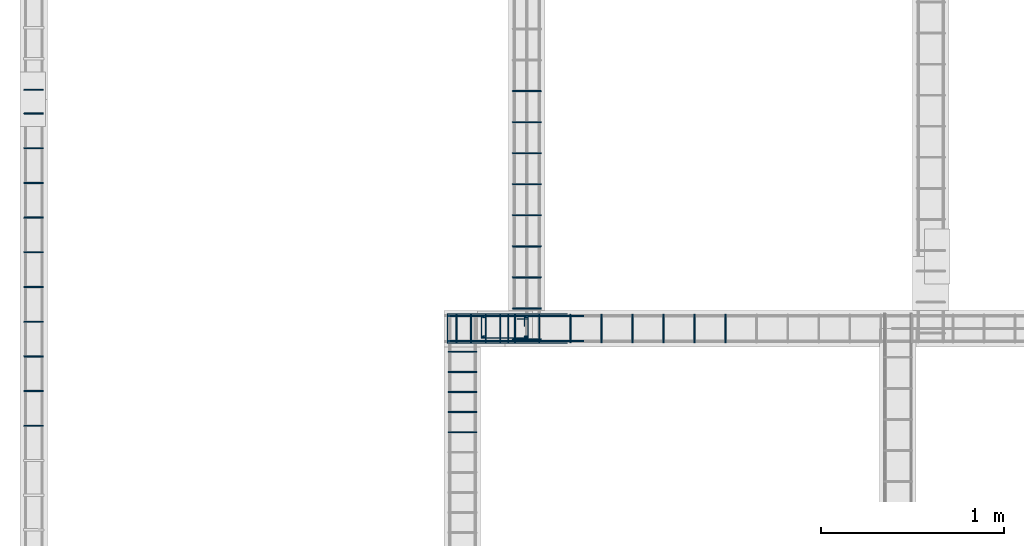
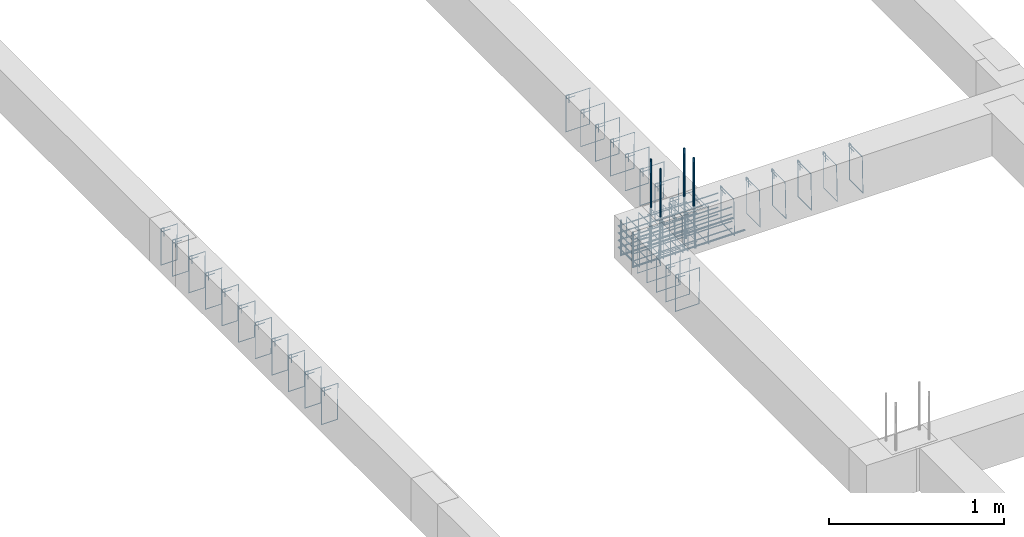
# One storey, part 112 of 150: 51 reinforcing bars.
"""IFC4 building model written with IfcOpenShell, lengths in centimetres."""

from ifc_helpers import new_model, entity, si_unit, derived_unit, frame, origin_with_axes, place, context, project, spatial, source, transform, mapped, element, save


model = new_model("IFC4")

# Units and contexts
model_context = context("Model", 3, precision=1e-05, world=origin_with_axes(), identifier="Body")
ifc_project = project(units=[si_unit("LENGTHUNIT", "METRE", prefix="CENTI"), si_unit("VOLUMEUNIT", "CUBIC_METRE"), si_unit("AREAUNIT", "SQUARE_METRE"), si_unit("POWERUNIT", "WATT"), si_unit("LUMINOUSFLUXUNIT", "LUMEN"), si_unit("ELECTRICCURRENTUNIT", "AMPERE"), si_unit("PRESSUREUNIT", "PASCAL", prefix="KILO"), si_unit("MASSUNIT", "GRAM", prefix="KILO"), si_unit("PLANEANGLEUNIT", "RADIAN"), derived_unit("VOLUMETRICFLOWRATEUNIT", [(si_unit("LENGTHUNIT", "METRE"), 3), (si_unit("TIMEUNIT", "SECOND"), -1)])], contexts=[model_context])

# Site, building, storey
site_placement = place(None, frame((-4000.0, 0.0, 0.0), z_axis=(0.0, 0.0, 1.0), x_axis=(1.0, 0.0, 0.0)))
site = spatial("IfcSite", under=ifc_project, at=site_placement, Name="PADRÃO")
building_placement = place(site_placement, frame((0.0, 0.0, -14.0)))
building = spatial("IfcBuilding", under=site, at=building_placement, Name="CRECHE PRÉ-ESCOLA TIPO 2")
placement = place(building_placement, origin_with_axes())
storey_placement = place(placement, frame((0.0, 0.0, 30.0), z_axis=(0.0, 0.0, 1.0), x_axis=(1.0, 0.0, 0.0)))
storey = spatial("IfcBuildingStorey", under=building, at=storey_placement, Name="VIGA BALDRAME", CompositionType="ELEMENT", Elevation=16.0)

# Reinforcing bars
shared_shape_1 = source(origin_with_axes(), model_context, "Body", "AdvancedSweptSolid", [
    entity("IfcSweptDiskSolid", entity("IfcCompositeCurve", [entity("IfcCompositeCurveSegment", "CONTINUOUS", True, entity("IfcPolyline", [entity("IfcCartesianPoint", [4.25, 21.75, 0.0]), entity("IfcCartesianPoint", [4.25, 27.75, 0.0])])), entity("IfcCompositeCurveSegment", "CONTINUOUS", True, entity("IfcPolyline", [entity("IfcCartesianPoint", [4.25, 27.75, 0.0]), entity("IfcCartesianPoint", [2.25, 27.75, 0.0])])), entity("IfcCompositeCurveSegment", "CONTINUOUS", True, entity("IfcPolyline", [entity("IfcCartesianPoint", [2.25, 27.75, 0.0]), entity("IfcCartesianPoint", [2.25, 2.25, 0.0])])), entity("IfcCompositeCurveSegment", "CONTINUOUS", True, entity("IfcPolyline", [entity("IfcCartesianPoint", [2.25, 2.25, 0.0]), entity("IfcCartesianPoint", [14.75, 2.25, 0.0])])), entity("IfcCompositeCurveSegment", "CONTINUOUS", True, entity("IfcPolyline", [entity("IfcCartesianPoint", [14.75, 2.25, 0.0]), entity("IfcCartesianPoint", [14.75, 27.75, -0.5])])), entity("IfcCompositeCurveSegment", "CONTINUOUS", True, entity("IfcPolyline", [entity("IfcCartesianPoint", [14.75, 27.75, -0.5]), entity("IfcCartesianPoint", [2.25, 27.75, -0.5])])), entity("IfcCompositeCurveSegment", "CONTINUOUS", True, entity("IfcPolyline", [entity("IfcCartesianPoint", [2.25, 27.75, -0.5]), entity("IfcCartesianPoint", [2.25, 25.75, -0.5])])), entity("IfcCompositeCurveSegment", "CONTINUOUS", True, entity("IfcPolyline", [entity("IfcCartesianPoint", [2.25, 25.75, -0.5]), entity("IfcCartesianPoint", [8.25, 25.75, -0.5])]))], False), 0.25),
])
for number, where, z_axis, x_axis, name in (
    (1, (252.01, 3478.5, -15.0), (0.0, 0.0, 1.0), (0.0, -1.0, 0.0), "P36 - Estribo"),
    (2, (252.01, 3478.5, -25.0), (0.0, 0.0, 1.0), (0.0, -1.0, 0.0), "P36 - Estribo"),
    (3, (252.01, 3478.5, -5.0), (0.0, 0.0, 1.0), (0.0, -1.0, 0.0), "P36 - Estribo"),
):
    element("IfcReinforcingBar", number, at=place(storey_placement, frame(where, z_axis=z_axis, x_axis=x_axis)), inside=storey, Name=name, BarLength=0.0, CrossSectionArea=1.9634954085e-05, NominalDiameter=0.5, PredefinedType="MAIN", context=model_context, shape_type="MappedRepresentation", body=[
        mapped(shared_shape_1, transform((0.0, 0.0, 0.0), scale=1.0)),
    ])
shared_shape_2 = source(origin_with_axes(), model_context, "Body", "AdvancedSweptSolid", [
    entity("IfcSweptDiskSolid", entity("IfcCompositeCurve", [entity("IfcCompositeCurveSegment", "CONTINUOUS", True, entity("IfcPolyline", [entity("IfcCartesianPoint", [2.0, -6.0, 0.0]), entity("IfcCartesianPoint", [2.0, 0.0, 0.0])])), entity("IfcCompositeCurveSegment", "CONTINUOUS", True, entity("IfcPolyline", [entity("IfcCartesianPoint", [2.0, 0.0, 0.0]), entity("IfcCartesianPoint", [0.0, 0.0, 0.0])])), entity("IfcCompositeCurveSegment", "CONTINUOUS", True, entity("IfcPolyline", [entity("IfcCartesianPoint", [0.0, 0.0, 0.0]), entity("IfcCartesianPoint", [0.0, -25.5, 0.0])])), entity("IfcCompositeCurveSegment", "CONTINUOUS", True, entity("IfcPolyline", [entity("IfcCartesianPoint", [0.0, -25.5, 0.0]), entity("IfcCartesianPoint", [15.5, -25.5, 0.0])])), entity("IfcCompositeCurveSegment", "CONTINUOUS", True, entity("IfcPolyline", [entity("IfcCartesianPoint", [15.5, -25.5, 0.0]), entity("IfcCartesianPoint", [15.5, 0.0, 0.5])])), entity("IfcCompositeCurveSegment", "CONTINUOUS", True, entity("IfcPolyline", [entity("IfcCartesianPoint", [15.5, 0.0, 0.5]), entity("IfcCartesianPoint", [0.0, 0.0, 0.5])])), entity("IfcCompositeCurveSegment", "CONTINUOUS", True, entity("IfcPolyline", [entity("IfcCartesianPoint", [0.0, 0.0, 0.5]), entity("IfcCartesianPoint", [0.0, -2.0, 0.5])])), entity("IfcCompositeCurveSegment", "CONTINUOUS", True, entity("IfcPolyline", [entity("IfcCartesianPoint", [0.0, -2.0, 0.5]), entity("IfcCartesianPoint", [6.0, -2.0, 0.5])]))], False), 0.25),
])
for number, where, z_axis, x_axis, name in (
    (4, (235.99, 3445.51, -2.25), (0.0, -1.0, 0.0), (1.0, 0.0, 0.0), "V164 - Estribo"),
    (5, (235.99, 3456.51, -2.25), (0.0, -1.0, 0.0), (1.0, 0.0, 0.0), "V164 - Estribo"),
    (6, (235.99, 3412.51, -2.25), (0.0, -1.0, 0.0), (1.0, 0.0, 0.0), "V164 - Estribo"),
    (7, (235.99, 3423.51, -2.25), (0.0, -1.0, 0.0), (1.0, 0.0, 0.0), "V164 - Estribo"),
    (8, (235.99, 3434.51, -2.25), (0.0, -1.0, 0.0), (1.0, 0.0, 0.0), "V164 - Estribo"),
):
    element("IfcReinforcingBar", number, at=place(storey_placement, frame(where, z_axis=z_axis, x_axis=x_axis)), inside=storey, Name=name, BarLength=0.0, CrossSectionArea=1.9634954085e-05, NominalDiameter=0.5, PredefinedType="MAIN", context=model_context, shape_type="MappedRepresentation", body=[
        mapped(shared_shape_2, transform((0.0, 0.0, 0.0), scale=1.0)),
    ])
shared_shape_3 = source(origin_with_axes(), model_context, "Body", "AdvancedSweptSolid", [
    entity("IfcSweptDiskSolid", entity("IfcCompositeCurve", [entity("IfcCompositeCurveSegment", "CONTINUOUS", True, entity("IfcPolyline", [entity("IfcCartesianPoint", [2.0, -6.0, 0.0]), entity("IfcCartesianPoint", [2.0, 0.0, 0.0])])), entity("IfcCompositeCurveSegment", "CONTINUOUS", True, entity("IfcPolyline", [entity("IfcCartesianPoint", [2.0, 0.0, 0.0]), entity("IfcCartesianPoint", [0.0, 0.0, 0.0])])), entity("IfcCompositeCurveSegment", "CONTINUOUS", True, entity("IfcPolyline", [entity("IfcCartesianPoint", [0.0, 0.0, 0.0]), entity("IfcCartesianPoint", [0.0, -25.5, 0.0])])), entity("IfcCompositeCurveSegment", "CONTINUOUS", True, entity("IfcPolyline", [entity("IfcCartesianPoint", [0.0, -25.5, 0.0]), entity("IfcCartesianPoint", [15.5, -25.5, 0.0])])), entity("IfcCompositeCurveSegment", "CONTINUOUS", True, entity("IfcPolyline", [entity("IfcCartesianPoint", [15.5, -25.5, 0.0]), entity("IfcCartesianPoint", [15.5, 0.0, 0.5])])), entity("IfcCompositeCurveSegment", "CONTINUOUS", True, entity("IfcPolyline", [entity("IfcCartesianPoint", [15.5, 0.0, 0.5]), entity("IfcCartesianPoint", [0.0, 0.0, 0.5])])), entity("IfcCompositeCurveSegment", "CONTINUOUS", True, entity("IfcPolyline", [entity("IfcCartesianPoint", [0.0, 0.0, 0.5]), entity("IfcCartesianPoint", [0.0, -2.0, 0.5])])), entity("IfcCompositeCurveSegment", "CONTINUOUS", True, entity("IfcPolyline", [entity("IfcCartesianPoint", [0.0, -2.0, 0.5]), entity("IfcCartesianPoint", [6.0, -2.0, 0.5])]))], False), 0.25),
])
for number, where, z_axis, x_axis, name in (
    (9, (271.25, 3514.25, -2.25), (0.0, -1.0, 0.0), (1.0, 0.0, 0.0), "V165 - Estribo"),
    (10, (271.25, 3480.25, -2.25), (0.0, -1.0, 0.0), (1.0, 0.0, 0.0), "V165 - Estribo"),
    (11, (271.25, 3565.25, -2.25), (0.0, -1.0, 0.0), (1.0, 0.0, 0.0), "V165 - Estribo"),
    (12, (271.25, 3497.25, -2.25), (0.0, -1.0, 0.0), (1.0, 0.0, 0.0), "V165 - Estribo"),
    (13, (271.25, 3531.25, -2.25), (0.0, -1.0, 0.0), (1.0, 0.0, 0.0), "V165 - Estribo"),
    (14, (271.25, 3548.25, -2.25), (0.0, -1.0, 0.0), (1.0, 0.0, 0.0), "V165 - Estribo"),
    (15, (271.25, 3582.25, -2.25), (0.0, -1.0, 0.0), (1.0, 0.0, 0.0), "V165 - Estribo"),
    (16, (271.25, 3463.25, -2.25), (0.0, -1.0, 0.0), (1.0, 0.0, 0.0), "V165 - Estribo"),
    (17, (271.25, 3599.25, -2.25), (0.0, -1.0, 0.0), (1.0, 0.0, 0.0), "V165 - Estribo"),
):
    element("IfcReinforcingBar", number, at=place(storey_placement, frame(where, z_axis=z_axis, x_axis=x_axis)), inside=storey, Name=name, BarLength=0.0, CrossSectionArea=1.9634954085e-05, NominalDiameter=0.5, PredefinedType="MAIN", context=model_context, shape_type="MappedRepresentation", body=[
        mapped(shared_shape_3, transform((0.0, 0.0, 0.0), scale=1.0)),
    ])
shared_shape_4 = source(origin_with_axes(), model_context, "Body", "AdvancedSweptSolid", [
    entity("IfcSweptDiskSolid", entity("IfcCompositeCurve", [entity("IfcCompositeCurveSegment", "CONTINUOUS", True, entity("IfcPolyline", [entity("IfcCartesianPoint", [2.0, -6.0, 0.0]), entity("IfcCartesianPoint", [2.0, 0.0, 0.0])])), entity("IfcCompositeCurveSegment", "CONTINUOUS", True, entity("IfcPolyline", [entity("IfcCartesianPoint", [2.0, 0.0, 0.0]), entity("IfcCartesianPoint", [0.0, 0.0, 0.0])])), entity("IfcCompositeCurveSegment", "CONTINUOUS", True, entity("IfcPolyline", [entity("IfcCartesianPoint", [0.0, 0.0, 0.0]), entity("IfcCartesianPoint", [0.0, -25.5, 0.0])])), entity("IfcCompositeCurveSegment", "CONTINUOUS", True, entity("IfcPolyline", [entity("IfcCartesianPoint", [0.0, -25.5, 0.0]), entity("IfcCartesianPoint", [15.5, -25.5, 0.0])])), entity("IfcCompositeCurveSegment", "CONTINUOUS", True, entity("IfcPolyline", [entity("IfcCartesianPoint", [15.5, -25.5, 0.0]), entity("IfcCartesianPoint", [15.5, 0.0, 0.5])])), entity("IfcCompositeCurveSegment", "CONTINUOUS", True, entity("IfcPolyline", [entity("IfcCartesianPoint", [15.5, 0.0, 0.5]), entity("IfcCartesianPoint", [0.0, 0.0, 0.5])])), entity("IfcCompositeCurveSegment", "CONTINUOUS", True, entity("IfcPolyline", [entity("IfcCartesianPoint", [0.0, 0.0, 0.5]), entity("IfcCartesianPoint", [0.0, -2.0, 0.5])])), entity("IfcCompositeCurveSegment", "CONTINUOUS", True, entity("IfcPolyline", [entity("IfcCartesianPoint", [0.0, -2.0, 0.5]), entity("IfcCartesianPoint", [6.0, -2.0, 0.5])]))], False), 0.25),
])
for number, where, z_axis, x_axis, name in (
    (18, (272.24, 3461.25, -2.25), (1.0, 0.0, 0.0), (0.0, 1.0, 0.0), "V110 - Estribo"),
    (19, (264.24, 3461.25, -2.25), (1.0, 0.0, 0.0), (0.0, 1.0, 0.0), "V110 - Estribo"),
    (20, (256.24, 3461.25, -2.25), (1.0, 0.0, 0.0), (0.0, 1.0, 0.0), "V110 - Estribo"),
    (21, (248.24, 3461.25, -2.25), (1.0, 0.0, 0.0), (0.0, 1.0, 0.0), "V110 - Estribo"),
    (22, (240.24, 3461.25, -2.25), (1.0, 0.0, 0.0), (0.0, 1.0, 0.0), "V110 - Estribo"),
):
    element("IfcReinforcingBar", number, at=place(storey_placement, frame(where, z_axis=z_axis, x_axis=x_axis)), inside=storey, Name=name, BarLength=0.0, CrossSectionArea=1.9634954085e-05, NominalDiameter=0.5, PredefinedType="MAIN", context=model_context, shape_type="MappedRepresentation", body=[
        mapped(shared_shape_4, transform((0.0, 0.0, 0.0), scale=1.0)),
    ])
shared_shape_5 = source(origin_with_axes(), model_context, "Body", "AdvancedSweptSolid", [
    entity("IfcSweptDiskSolid", entity("IfcCompositeCurve", [entity("IfcCompositeCurveSegment", "CONTINUOUS", True, entity("IfcPolyline", [entity("IfcCartesianPoint", [2.0, -6.0, 0.0]), entity("IfcCartesianPoint", [2.0, 0.0, 0.0])])), entity("IfcCompositeCurveSegment", "CONTINUOUS", True, entity("IfcPolyline", [entity("IfcCartesianPoint", [2.0, 0.0, 0.0]), entity("IfcCartesianPoint", [0.0, 0.0, 0.0])])), entity("IfcCompositeCurveSegment", "CONTINUOUS", True, entity("IfcPolyline", [entity("IfcCartesianPoint", [0.0, 0.0, 0.0]), entity("IfcCartesianPoint", [0.0, -25.5, 0.0])])), entity("IfcCompositeCurveSegment", "CONTINUOUS", True, entity("IfcPolyline", [entity("IfcCartesianPoint", [0.0, -25.5, 0.0]), entity("IfcCartesianPoint", [15.5, -25.5, 0.0])])), entity("IfcCompositeCurveSegment", "CONTINUOUS", True, entity("IfcPolyline", [entity("IfcCartesianPoint", [15.5, -25.5, 0.0]), entity("IfcCartesianPoint", [15.5, 0.0, 0.5])])), entity("IfcCompositeCurveSegment", "CONTINUOUS", True, entity("IfcPolyline", [entity("IfcCartesianPoint", [15.5, 0.0, 0.5]), entity("IfcCartesianPoint", [0.0, 0.0, 0.5])])), entity("IfcCompositeCurveSegment", "CONTINUOUS", True, entity("IfcPolyline", [entity("IfcCartesianPoint", [0.0, 0.0, 0.5]), entity("IfcCartesianPoint", [0.0, -2.0, 0.5])])), entity("IfcCompositeCurveSegment", "CONTINUOUS", True, entity("IfcPolyline", [entity("IfcCartesianPoint", [0.0, -2.0, 0.5]), entity("IfcCartesianPoint", [6.0, -2.0, 0.5])]))], False), 0.25),
])
for number, where, z_axis, x_axis, name in (
    (23, (337.1, 3476.75, -2.25), (-1.0, 0.0, 0.0), (0.0, -1.0, 0.0), "V110 - Estribo"),
    (24, (354.1, 3476.75, -2.25), (-1.0, 0.0, 0.0), (0.0, -1.0, 0.0), "V110 - Estribo"),
    (25, (371.1, 3476.75, -2.25), (-1.0, 0.0, 0.0), (0.0, -1.0, 0.0), "V110 - Estribo"),
    (26, (388.1, 3476.75, -2.25), (-1.0, 0.0, 0.0), (0.0, -1.0, 0.0), "V110 - Estribo"),
    (27, (303.1, 3476.75, -2.25), (-1.0, 0.0, 0.0), (0.0, -1.0, 0.0), "V110 - Estribo"),
    (28, (320.1, 3476.75, -2.25), (-1.0, 0.0, 0.0), (0.0, -1.0, 0.0), "V110 - Estribo"),
    (29, (269.1, 3476.75, -2.25), (-1.0, 0.0, 0.0), (0.0, -1.0, 0.0), "V110 - Estribo"),
    (30, (286.1, 3476.75, -2.25), (-1.0, 0.0, 0.0), (0.0, -1.0, 0.0), "V110 - Estribo"),
):
    element("IfcReinforcingBar", number, at=place(storey_placement, frame(where, z_axis=z_axis, x_axis=x_axis)), inside=storey, Name=name, BarLength=0.0, CrossSectionArea=1.9634954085e-05, NominalDiameter=0.5, PredefinedType="MAIN", context=model_context, shape_type="MappedRepresentation", body=[
        mapped(shared_shape_5, transform((0.0, 0.0, 0.0), scale=1.0)),
    ])
shared_shape_6 = source(origin_with_axes(), model_context, "Body", "AdvancedSweptSolid", [
    entity("IfcSweptDiskSolid", entity("IfcCompositeCurve", [entity("IfcCompositeCurveSegment", "CONTINUOUS", True, entity("IfcPolyline", [entity("IfcCartesianPoint", [0.0, 0.0, 0.0]), entity("IfcCartesianPoint", [-65.7013828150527, 0.0, 0.0])])), entity("IfcCompositeCurveSegment", "CONTINUOUS", True, entity("IfcPolyline", [entity("IfcCartesianPoint", [-65.7013828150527, 0.0, 0.0]), entity("IfcCartesianPoint", [-65.7013828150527, -16.0, 0.0])])), entity("IfcCompositeCurveSegment", "CONTINUOUS", True, entity("IfcPolyline", [entity("IfcCartesianPoint", [-65.7013828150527, -16.0, 0.0]), entity("IfcCartesianPoint", [0.0, -16.0, 0.0])]))], False), 0.25),
])
for number, where, z_axis, x_axis, name in (
    (31, (301.191382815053, 3477.0, -21.875), (0.0, 0.0, 1.0), (1.0, 0.0, 0.0), "V110 - Grampo"),
    (32, (301.191382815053, 3477.0, -16.875), (0.0, 0.0, 1.0), (1.0, 0.0, 0.0), "V110 - Grampo"),
    (33, (301.191382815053, 3477.0, -11.875), (0.0, 0.0, 1.0), (1.0, 0.0, 0.0), "V110 - Grampo"),
    (34, (301.191382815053, 3477.0, -6.875), (0.0, 0.0, 1.0), (1.0, 0.0, 0.0), "V110 - Grampo"),
):
    element("IfcReinforcingBar", number, at=place(storey_placement, frame(where, z_axis=z_axis, x_axis=x_axis)), inside=storey, Name=name, BarLength=0.0, CrossSectionArea=1.9634954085e-05, NominalDiameter=0.5, PredefinedType="MAIN", context=model_context, shape_type="MappedRepresentation", body=[
        mapped(shared_shape_6, transform((0.0, 0.0, 0.0), scale=1.0)),
    ])
shared_shape_7 = source(origin_with_axes(), model_context, "Body", "AdvancedSweptSolid", [
    entity("IfcSweptDiskSolid", entity("IfcCompositeCurve", [entity("IfcCompositeCurveSegment", "CONTINUOUS", True, entity("IfcPolyline", [entity("IfcCartesianPoint", [2.0, -6.0, 0.0]), entity("IfcCartesianPoint", [2.0, 0.0, 0.0])])), entity("IfcCompositeCurveSegment", "CONTINUOUS", True, entity("IfcPolyline", [entity("IfcCartesianPoint", [2.0, 0.0, 0.0]), entity("IfcCartesianPoint", [0.0, 0.0, 0.0])])), entity("IfcCompositeCurveSegment", "CONTINUOUS", True, entity("IfcPolyline", [entity("IfcCartesianPoint", [0.0, 0.0, 0.0]), entity("IfcCartesianPoint", [0.0, -25.5, 0.0])])), entity("IfcCompositeCurveSegment", "CONTINUOUS", True, entity("IfcPolyline", [entity("IfcCartesianPoint", [0.0, -25.5, 0.0]), entity("IfcCartesianPoint", [10.5, -25.5, 0.0])])), entity("IfcCompositeCurveSegment", "CONTINUOUS", True, entity("IfcPolyline", [entity("IfcCartesianPoint", [10.5, -25.5, 0.0]), entity("IfcCartesianPoint", [10.5, 0.0, 0.5])])), entity("IfcCompositeCurveSegment", "CONTINUOUS", True, entity("IfcPolyline", [entity("IfcCartesianPoint", [10.5, 0.0, 0.5]), entity("IfcCartesianPoint", [0.0, 0.0, 0.5])])), entity("IfcCompositeCurveSegment", "CONTINUOUS", True, entity("IfcPolyline", [entity("IfcCartesianPoint", [0.0, 0.0, 0.5]), entity("IfcCartesianPoint", [0.0, -2.0, 0.5])])), entity("IfcCompositeCurveSegment", "CONTINUOUS", True, entity("IfcPolyline", [entity("IfcCartesianPoint", [0.0, -2.0, 0.5]), entity("IfcCartesianPoint", [6.0, -2.0, 0.5])]))], False), 0.25),
])
for number, where, z_axis, x_axis, name in (
    (35, (3.75, 3416.0, -2.25), (0.0, -1.0, 0.0), (1.0, 0.0, 0.0), "V159 - Estribo"),
    (36, (3.75, 3435.0, -2.25), (0.0, -1.0, 0.0), (1.0, 0.0, 0.0), "V159 - Estribo"),
    (37, (3.75, 3454.0, -2.25), (0.0, -1.0, 0.0), (1.0, 0.0, 0.0), "V159 - Estribo"),
    (38, (3.75, 3473.0, -2.25), (0.0, -1.0, 0.0), (1.0, 0.0, 0.0), "V159 - Estribo"),
    (39, (3.75, 3492.0, -2.25), (0.0, -1.0, 0.0), (1.0, 0.0, 0.0), "V159 - Estribo"),
    (40, (3.75, 3511.0, -2.25), (0.0, -1.0, 0.0), (1.0, 0.0, 0.0), "V159 - Estribo"),
    (41, (3.75, 3530.0, -2.25), (0.0, -1.0, 0.0), (1.0, 0.0, 0.0), "V159 - Estribo"),
    (42, (3.75, 3549.0, -2.25), (0.0, -1.0, 0.0), (1.0, 0.0, 0.0), "V159 - Estribo"),
    (43, (3.75, 3568.0, -2.25), (0.0, -1.0, 0.0), (1.0, 0.0, 0.0), "V159 - Estribo"),
    (44, (3.75, 3587.0, -2.25), (0.0, -1.0, 0.0), (1.0, 0.0, 0.0), "V159 - Estribo"),
):
    element("IfcReinforcingBar", number, at=place(storey_placement, frame(where, z_axis=z_axis, x_axis=x_axis)), inside=storey, Name=name, BarLength=0.0, CrossSectionArea=1.9634954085e-05, NominalDiameter=0.5, PredefinedType="MAIN", context=model_context, shape_type="MappedRepresentation", body=[
        mapped(shared_shape_7, transform((0.0, 0.0, 0.0), scale=1.0)),
    ])
shared_shape_8 = source(origin_with_axes(), model_context, "Body", "AdvancedSweptSolid", [
    entity("IfcSweptDiskSolid", entity("IfcCompositeCurve", [entity("IfcCompositeCurveSegment", "CONTINUOUS", True, entity("IfcPolyline", [entity("IfcCartesianPoint", [2.0, -6.0, 0.0]), entity("IfcCartesianPoint", [2.0, 0.0, 0.0])])), entity("IfcCompositeCurveSegment", "CONTINUOUS", True, entity("IfcPolyline", [entity("IfcCartesianPoint", [2.0, 0.0, 0.0]), entity("IfcCartesianPoint", [0.0, 0.0, 0.0])])), entity("IfcCompositeCurveSegment", "CONTINUOUS", True, entity("IfcPolyline", [entity("IfcCartesianPoint", [0.0, 0.0, 0.0]), entity("IfcCartesianPoint", [0.0, -25.5, 0.0])])), entity("IfcCompositeCurveSegment", "CONTINUOUS", True, entity("IfcPolyline", [entity("IfcCartesianPoint", [0.0, -25.5, 0.0]), entity("IfcCartesianPoint", [10.5, -25.5, 0.0])])), entity("IfcCompositeCurveSegment", "CONTINUOUS", True, entity("IfcPolyline", [entity("IfcCartesianPoint", [10.5, -25.5, 0.0]), entity("IfcCartesianPoint", [10.5, 0.0, 0.5])])), entity("IfcCompositeCurveSegment", "CONTINUOUS", True, entity("IfcPolyline", [entity("IfcCartesianPoint", [10.5, 0.0, 0.5]), entity("IfcCartesianPoint", [0.0, 0.0, 0.5])])), entity("IfcCompositeCurveSegment", "CONTINUOUS", True, entity("IfcPolyline", [entity("IfcCartesianPoint", [0.0, 0.0, 0.5]), entity("IfcCartesianPoint", [0.0, -2.0, 0.5])])), entity("IfcCompositeCurveSegment", "CONTINUOUS", True, entity("IfcPolyline", [entity("IfcCartesianPoint", [0.0, -2.0, 0.5]), entity("IfcCartesianPoint", [6.0, -2.0, 0.5])]))], False), 0.25),
])
reinforcing_bar_1_placement = place(storey_placement, frame((3.75, 3600.0, -2.25), z_axis=(0.0, -1.0, 0.0), x_axis=(1.0, 0.0, 0.0)))
element("IfcReinforcingBar", 45, at=reinforcing_bar_1_placement, inside=storey, Name="V159 - Estribo", BarLength=0.0, CrossSectionArea=1.9634954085e-05, NominalDiameter=0.5, PredefinedType="MAIN", context=model_context, shape_type="MappedRepresentation", body=[
    mapped(shared_shape_8, transform((0.0, 0.0, 0.0), scale=1.0)),
])
reinforcing_bar_2_placement = place(storey_placement, frame((255.510138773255, 3475.5, 33.3573001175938), z_axis=(0.0, 0.0, 1.0), x_axis=(1.0, 0.0, 0.0)))
element("IfcReinforcingBar", 46, at=reinforcing_bar_2_placement, inside=storey, Name="P36 - Longitudinal", BarLength=0.0, CrossSectionArea=7.853981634e-05, NominalDiameter=1.0, PredefinedType="MAIN", context=model_context, shape_type="AdvancedSweptSolid", body=[
    entity("IfcSweptDiskSolid", entity("IfcCompositeCurve", [entity("IfcCompositeCurveSegment", "CONTINUOUS", True, entity("IfcPolyline", [entity("IfcCartesianPoint", [-0.50013877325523, 0.0, -63.3573001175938]), entity("IfcCartesianPoint", [0.49986122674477, 0.0, -33.3573001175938])])), entity("IfcCompositeCurveSegment", "CONTINUOUS", True, entity("IfcPolyline", [entity("IfcCartesianPoint", [0.49986122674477, 0.0, -33.3573001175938]), entity("IfcCartesianPoint", [0.49986122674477, 0.0, 0.0])]))], False), 0.5),
])
for number, where, z_axis, x_axis, name in (
    (47, (278.509861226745, 3464.5, 33.3573001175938), (0.0, 0.0, 1.0), (1.0, 0.0, 0.0), "P36 - Longitudinal"),
    (48, (278.509861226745, 3475.5, 33.3573001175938), (0.0, 0.0, 1.0), (1.0, 0.0, 0.0), "P36 - Longitudinal"),
):
    element("IfcReinforcingBar", number, at=place(storey_placement, frame(where, z_axis=z_axis, x_axis=x_axis)), inside=storey, Name=name, BarLength=0.0, CrossSectionArea=7.853981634e-05, NominalDiameter=1.0, PredefinedType="MAIN", context=model_context, shape_type="AdvancedSweptSolid", body=[
        entity("IfcSweptDiskSolid", entity("IfcCompositeCurve", [entity("IfcCompositeCurveSegment", "CONTINUOUS", True, entity("IfcPolyline", [entity("IfcCartesianPoint", [0.50013877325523, 0.0, -63.3573001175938]), entity("IfcCartesianPoint", [-0.49986122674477, 0.0, -33.3573001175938])])), entity("IfcCompositeCurveSegment", "CONTINUOUS", True, entity("IfcPolyline", [entity("IfcCartesianPoint", [-0.49986122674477, 0.0, -33.3573001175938]), entity("IfcCartesianPoint", [-0.49986122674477, 0.0, 0.0])]))], False), 0.5),
    ])
reinforcing_bar_3_placement = place(storey_placement, frame((255.510138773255, 3464.5, 33.3573001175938), z_axis=(0.0, 0.0, 1.0), x_axis=(1.0, 0.0, 0.0)))
element("IfcReinforcingBar", 49, at=reinforcing_bar_3_placement, inside=storey, Name="P36 - Longitudinal", BarLength=0.0, CrossSectionArea=7.853981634e-05, NominalDiameter=1.0, PredefinedType="MAIN", context=model_context, shape_type="AdvancedSweptSolid", body=[
    entity("IfcSweptDiskSolid", entity("IfcCompositeCurve", [entity("IfcCompositeCurveSegment", "CONTINUOUS", True, entity("IfcPolyline", [entity("IfcCartesianPoint", [-0.50013877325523, 0.0, -63.3573001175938]), entity("IfcCartesianPoint", [0.49986122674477, 0.0, -33.3573001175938])])), entity("IfcCompositeCurveSegment", "CONTINUOUS", True, entity("IfcPolyline", [entity("IfcCartesianPoint", [0.49986122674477, 0.0, -33.3573001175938]), entity("IfcCartesianPoint", [0.49986122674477, 0.0, 0.0])]))], False), 0.5),
])
for number, where, z_axis, x_axis, name in (
    (50, (273.085382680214, 3475.875, -2.475), (0.0, 0.0, 1.0), (1.0, 0.0, 0.0), "V110 - Longitudinal inferior"),
    (51, (273.085382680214, 3462.125, -2.475), (0.0, 0.0, 1.0), (1.0, 0.0, 0.0), "V110 - Longitudinal inferior"),
):
    element("IfcReinforcingBar", number, at=place(storey_placement, frame(where, z_axis=z_axis, x_axis=x_axis)), inside=storey, Name=name, BarLength=0.0, CrossSectionArea=0.000122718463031, NominalDiameter=1.25, PredefinedType="MAIN", context=model_context, shape_type="AdvancedSweptSolid", body=[
        entity("IfcSweptDiskSolid", entity("IfcCompositeCurve", [entity("IfcCompositeCurveSegment", "CONTINUOUS", True, entity("IfcPolyline", [entity("IfcCartesianPoint", [-36.7203826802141, 0.0, 0.0]), entity("IfcCartesianPoint", [-36.7203826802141, 0.0, -24.4])])), entity("IfcCompositeCurveSegment", "CONTINUOUS", True, entity("IfcPolyline", [entity("IfcCartesianPoint", [-36.7203826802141, 0.0, -24.4]), entity("IfcCartesianPoint", [37.3512424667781, 0.0, -24.4])]))], False), 0.625),
    ])

save(model, "model.ifc")
